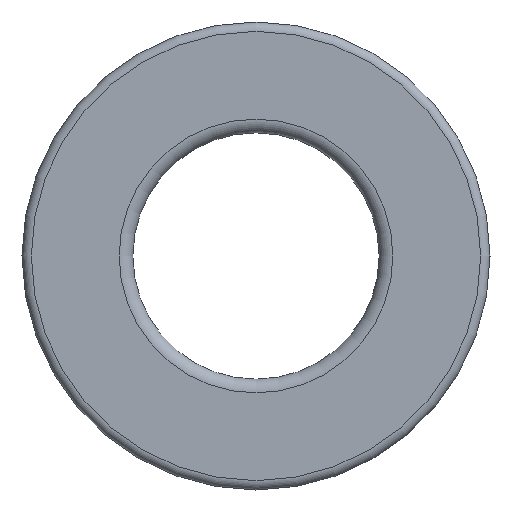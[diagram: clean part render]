
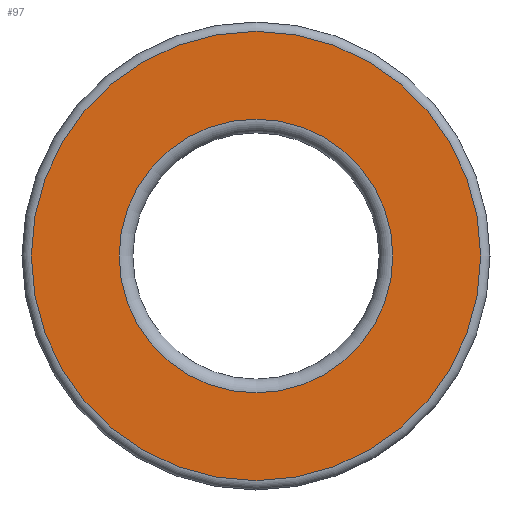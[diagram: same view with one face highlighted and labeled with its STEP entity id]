
A CAD part, left-side view. The second image highlights one B-rep face of the part: STEP entity #97.
In plain terms, the highlighted planar face has unit normal (-1, 0, 0).
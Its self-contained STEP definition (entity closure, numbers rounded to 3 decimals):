
#97=ADVANCED_FACE('',(#166,#167),#168,.F.);
#166=FACE_BOUND('',#238,.T.);
#167=FACE_OUTER_BOUND('',#239,.T.);
#168=PLANE('',#240);
#238=EDGE_LOOP('',(#354));
#239=EDGE_LOOP('',(#355));
#240=AXIS2_PLACEMENT_3D('',#356,#357,#358);
#354=ORIENTED_EDGE('',*,*,#386,.F.);
#355=ORIENTED_EDGE('',*,*,#387,.T.);
#356=CARTESIAN_POINT('',(0.0,9.119,0.0));
#357=DIRECTION('',(1.0,0.0,0.0));
#358=DIRECTION('',(0.0,0.0,-1.0));
#386=EDGE_CURVE('',#432,#432,#433,.T.);
#387=EDGE_CURVE('',#434,#434,#435,.T.);
#432=VERTEX_POINT('',#480);
#433=CIRCLE('',#481,5.558);
#434=VERTEX_POINT('',#482);
#435=CIRCLE('',#483,9.119);
#480=CARTESIAN_POINT('',(0.0,0.0,5.558));
#481=AXIS2_PLACEMENT_3D('',#550,#551,#552);
#482=CARTESIAN_POINT('',(0.0,0.0,9.119));
#483=AXIS2_PLACEMENT_3D('',#553,#554,#555);
#550=CARTESIAN_POINT('',(0.0,0.0,0.0));
#551=DIRECTION('',(-1.0,0.0,0.0));
#552=DIRECTION('',(0.0,0.0,1.0));
#553=CARTESIAN_POINT('',(0.0,0.0,0.0));
#554=DIRECTION('',(-1.0,0.0,0.0));
#555=DIRECTION('',(0.0,0.0,1.0));
